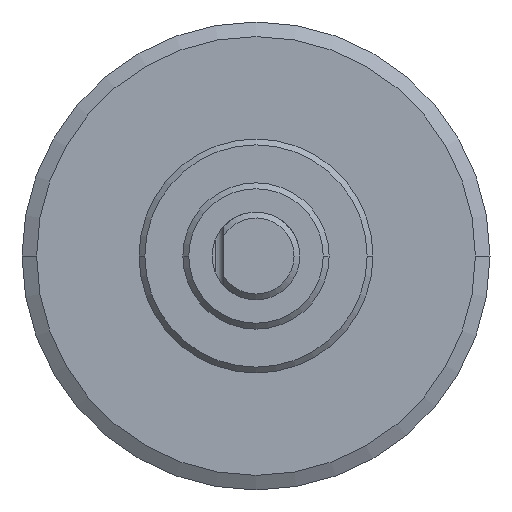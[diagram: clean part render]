
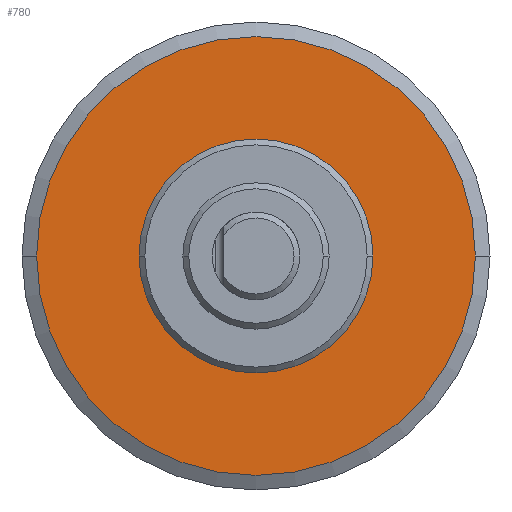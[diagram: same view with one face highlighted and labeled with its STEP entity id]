
A CAD part, left-side view. The second image highlights one B-rep face of the part: STEP entity #780.
In plain terms, the highlighted planar face has unit normal (-1, 0, 0).
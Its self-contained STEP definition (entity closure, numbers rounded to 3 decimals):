
#191=CARTESIAN_POINT('',(-12.8,0.,0.));
#192=DIRECTION('',(1.,0.,0.));
#193=DIRECTION('',(0.,-1.,0.));
#194=AXIS2_PLACEMENT_3D('',#191,#192,#193);
#196=CARTESIAN_POINT('',(-12.8,0.,0.));
#197=DIRECTION('',(1.,0.,0.));
#198=DIRECTION('',(0.,1.,0.));
#199=AXIS2_PLACEMENT_3D('',#196,#197,#198);
#201=CARTESIAN_POINT('',(-12.8,0.,0.));
#202=DIRECTION('',(-1.,0.,0.));
#203=DIRECTION('',(0.,-1.,0.));
#204=AXIS2_PLACEMENT_3D('',#201,#202,#203);
#206=CARTESIAN_POINT('',(-12.8,0.,0.));
#207=DIRECTION('',(-1.,0.,0.));
#208=DIRECTION('',(0.,1.,0.));
#209=AXIS2_PLACEMENT_3D('',#206,#207,#208);
#435=CARTESIAN_POINT('',(-12.8,-3.75,0.));
#436=VERTEX_POINT('',#435);
#437=CARTESIAN_POINT('',(-12.8,3.75,0.));
#438=VERTEX_POINT('',#437);
#443=CARTESIAN_POINT('',(-12.8,-2.,0.));
#444=CARTESIAN_POINT('',(-12.8,2.,0.));
#445=VERTEX_POINT('',#443);
#446=VERTEX_POINT('',#444);
#765=CARTESIAN_POINT('',(-12.8,0.,0.));
#766=DIRECTION('',(1.,0.,0.));
#767=DIRECTION('',(0.,-1.,0.));
#768=AXIS2_PLACEMENT_3D('',#765,#766,#767);
#769=PLANE('',#768);
#771=ORIENTED_EDGE('',*,*,#770,.T.);
#773=ORIENTED_EDGE('',*,*,#772,.T.);
#774=EDGE_LOOP('',(#771,#773));
#775=FACE_OUTER_BOUND('',#774,.F.);
#776=ORIENTED_EDGE('',*,*,#744,.T.);
#777=ORIENTED_EDGE('',*,*,#759,.T.);
#778=EDGE_LOOP('',(#776,#777));
#779=FACE_BOUND('',#778,.F.);
#195=CIRCLE('',#194,3.75);
#200=CIRCLE('',#199,3.75);
#205=CIRCLE('',#204,2.);
#210=CIRCLE('',#209,2.);
#744=EDGE_CURVE('',#445,#446,#205,.T.);
#759=EDGE_CURVE('',#446,#445,#210,.T.);
#770=EDGE_CURVE('',#436,#438,#195,.T.);
#772=EDGE_CURVE('',#438,#436,#200,.T.);
#780=ADVANCED_FACE('',(#775,#779),#769,.F.);
